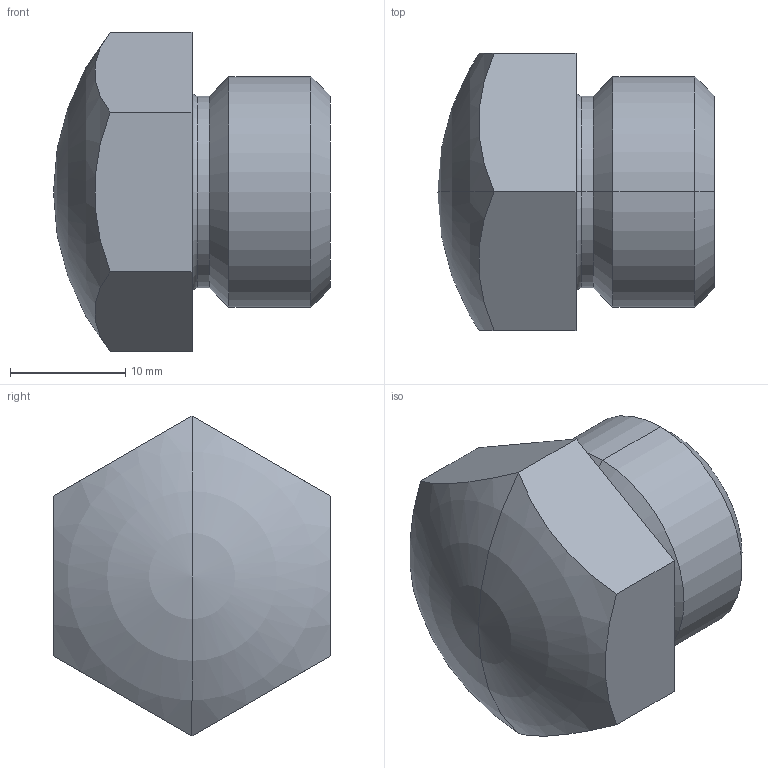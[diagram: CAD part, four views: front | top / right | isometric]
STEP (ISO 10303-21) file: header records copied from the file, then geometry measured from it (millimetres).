
FILE_DESCRIPTION((''),'2;1');
FILE_NAME('BS-202','2011-08-19T',('chad.steele'),(''),'PRO/ENGINEER BY PARAMETRIC TECHNOLOGY CORPORATION, 2010040','PRO/ENGINEER BY PARAMETRIC TECHNOLOGY CORPORATION, 2010040','');
FILE_SCHEMA(('CONFIG_CONTROL_DESIGN'));
Length unit declared in the file: millimetre
Products named in the file (1): BS-202
Bounding box: 24 x 24 x 27.71 mm (x, y, z)
Volume: 8475.8 mm3; surface area: 2502.1 mm2
Topology: 1 solids, 1 shells, 20 faces, 44 edges, 25 vertices
Faces by surface type: plane 8, cone 4, cylinder 4, torus 2, sphere 2
Entity records: 574 total; most frequent: DIRECTION 104, CARTESIAN_POINT 87, ORIENTED_EDGE 84, AXIS2_PLACEMENT_3D 42, EDGE_CURVE 42, VERTEX_POINT 25, CIRCLE 22, EDGE_LOOP 21
